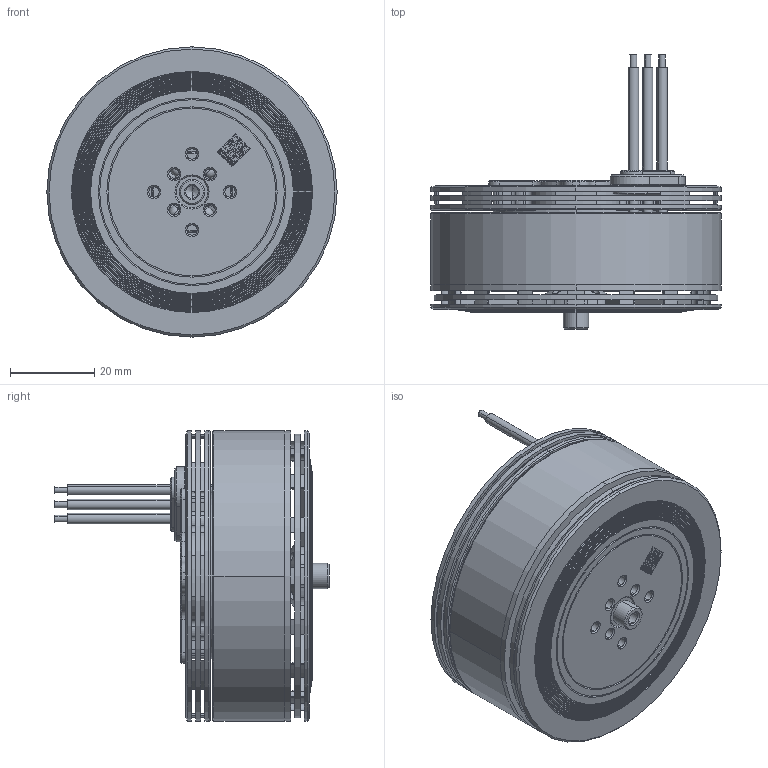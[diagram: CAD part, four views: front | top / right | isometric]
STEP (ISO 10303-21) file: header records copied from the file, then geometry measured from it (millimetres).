
FILE_DESCRIPTION (( 'STEP AP203' ), '1' );
FILE_NAME ('HM-6215-萇儂3D-勤俋-231117.STEP', '2023-11-07T08:36:02', ( '' ), ( '' ), 'SwSTEP 2.0', 'SolidWorks 2021', '' );
FILE_SCHEMA (( 'CONFIG_CONTROL_DESIGN' ));
Length unit declared in the file: millimetre
Products named in the file (1): HM-6215-萇儂3D-勤俋-231117
Bounding box: 68.7 x 64.95 x 68.7 mm (x, y, z)
Volume: 63305.3 mm3; surface area: 46343.3 mm2
Topology: 17 solids, 19 shells, 2745 faces, 8299 edges, 5362 vertices
Faces by surface type: plane 1167, cylinder 910, cone 325, torus 194, bspline 109, sphere 40
Entity records: 109180 total; most frequent: CARTESIAN_POINT 33941, ORIENTED_EDGE 16298, DIRECTION 16040, EDGE_CURVE 8149, AXIS2_PLACEMENT_3D 6005, VERTEX_POINT 5282, VECTOR 4030, LINE 4030
